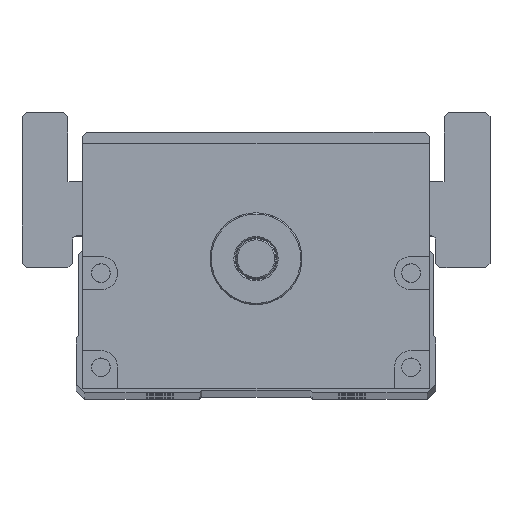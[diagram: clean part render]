
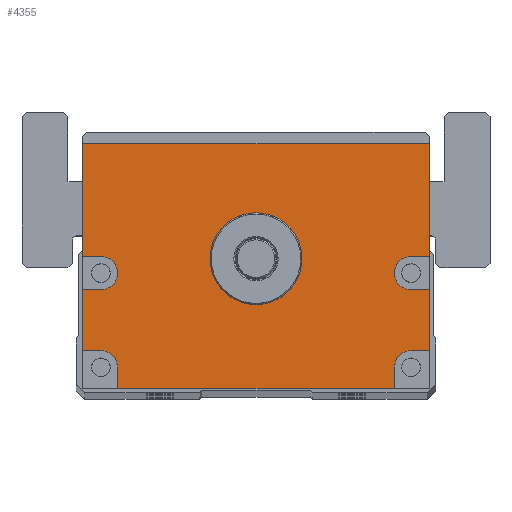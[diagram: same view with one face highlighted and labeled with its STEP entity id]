
A CAD part, top view. The second image highlights one B-rep face of the part: STEP entity #4355.
In plain terms, the highlighted planar face has unit normal (0, 0, 1).
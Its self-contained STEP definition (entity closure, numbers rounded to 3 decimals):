
#3692=FACE_BOUND('',#6014,.T.);
#3693=FACE_BOUND('',#6015,.T.);
#4355=ADVANCED_FACE('',(#3692,#3693),#4845,.T.);
#4845=PLANE('',#15044);
#6014=EDGE_LOOP('',(#9879,#9880,#9881,#9882,#9883,#9884,#9885,#9886,#9887,
#9888,#9889,#9890,#9891,#9892,#9893,#9894,#9895,#9896));
#6015=EDGE_LOOP('',(#9897));
#6893=LINE('',#21819,#7665);
#6895=LINE('',#21827,#7667);
#6896=LINE('',#21830,#7668);
#6897=LINE('',#21832,#7669);
#6898=LINE('',#21836,#7670);
#6899=LINE('',#21838,#7671);
#6900=LINE('',#21839,#7672);
#6901=LINE('',#21841,#7673);
#6902=LINE('',#21845,#7674);
#6903=LINE('',#21847,#7675);
#6904=LINE('',#21849,#7676);
#6905=LINE('',#21853,#7677);
#6906=LINE('',#21855,#7678);
#6907=LINE('',#21857,#7679);
#7665=VECTOR('',#17316,1.);
#7667=VECTOR('',#17324,1.);
#7668=VECTOR('',#17325,1.);
#7669=VECTOR('',#17326,1.);
#7670=VECTOR('',#17329,1.);
#7671=VECTOR('',#17330,1.);
#7672=VECTOR('',#17331,1.);
#7673=VECTOR('',#17332,1.);
#7674=VECTOR('',#17335,1.);
#7675=VECTOR('',#17336,1.);
#7676=VECTOR('',#17337,1.);
#7677=VECTOR('',#17340,1.);
#7678=VECTOR('',#17341,1.);
#7679=VECTOR('',#17342,1.);
#9879=ORIENTED_EDGE('',*,*,#13257,.F.);
#9880=ORIENTED_EDGE('',*,*,#13258,.T.);
#9881=ORIENTED_EDGE('',*,*,#13259,.F.);
#9882=ORIENTED_EDGE('',*,*,#13260,.F.);
#9883=ORIENTED_EDGE('',*,*,#13261,.F.);
#9884=ORIENTED_EDGE('',*,*,#13262,.T.);
#9885=ORIENTED_EDGE('',*,*,#13253,.T.);
#9886=ORIENTED_EDGE('',*,*,#13263,.T.);
#9887=ORIENTED_EDGE('',*,*,#13264,.F.);
#9888=ORIENTED_EDGE('',*,*,#13265,.F.);
#9889=ORIENTED_EDGE('',*,*,#13266,.F.);
#9890=ORIENTED_EDGE('',*,*,#13267,.T.);
#9891=ORIENTED_EDGE('',*,*,#13268,.F.);
#9892=ORIENTED_EDGE('',*,*,#13269,.F.);
#9893=ORIENTED_EDGE('',*,*,#13270,.F.);
#9894=ORIENTED_EDGE('',*,*,#13271,.T.);
#9895=ORIENTED_EDGE('',*,*,#13272,.F.);
#9896=ORIENTED_EDGE('',*,*,#13273,.F.);
#9897=ORIENTED_EDGE('',*,*,#13239,.T.);
#11826=VERTEX_POINT('',#21790);
#11839=VERTEX_POINT('',#21818);
#11840=VERTEX_POINT('',#21820);
#11843=VERTEX_POINT('',#21828);
#11844=VERTEX_POINT('',#21829);
#11845=VERTEX_POINT('',#21831);
#11846=VERTEX_POINT('',#21833);
#11847=VERTEX_POINT('',#21835);
#11848=VERTEX_POINT('',#21837);
#11849=VERTEX_POINT('',#21840);
#11850=VERTEX_POINT('',#21842);
#11851=VERTEX_POINT('',#21844);
#11852=VERTEX_POINT('',#21846);
#11853=VERTEX_POINT('',#21848);
#11854=VERTEX_POINT('',#21850);
#11855=VERTEX_POINT('',#21852);
#11856=VERTEX_POINT('',#21854);
#11857=VERTEX_POINT('',#21856);
#11858=VERTEX_POINT('',#21858);
#13239=EDGE_CURVE('',#11826,#11826,#14158,.T.);
#13253=EDGE_CURVE('',#11840,#11839,#6893,.T.);
#13257=EDGE_CURVE('',#11843,#11844,#6895,.T.);
#13258=EDGE_CURVE('',#11843,#11845,#6896,.T.);
#13259=EDGE_CURVE('',#11846,#11845,#6897,.T.);
#13260=EDGE_CURVE('',#11847,#11846,#14169,.T.);
#13261=EDGE_CURVE('',#11848,#11847,#6898,.T.);
#13262=EDGE_CURVE('',#11848,#11840,#6899,.T.);
#13263=EDGE_CURVE('',#11839,#11849,#6900,.T.);
#13264=EDGE_CURVE('',#11850,#11849,#6901,.T.);
#13265=EDGE_CURVE('',#11851,#11850,#14170,.T.);
#13266=EDGE_CURVE('',#11852,#11851,#6902,.T.);
#13267=EDGE_CURVE('',#11852,#11853,#6903,.T.);
#13268=EDGE_CURVE('',#11854,#11853,#6904,.T.);
#13269=EDGE_CURVE('',#11855,#11854,#14171,.T.);
#13270=EDGE_CURVE('',#11856,#11855,#6905,.T.);
#13271=EDGE_CURVE('',#11856,#11857,#6906,.T.);
#13272=EDGE_CURVE('',#11858,#11857,#6907,.T.);
#13273=EDGE_CURVE('',#11844,#11858,#14172,.T.);
#14158=CIRCLE('',#15026,11.);
#14169=CIRCLE('',#15040,4.);
#14170=CIRCLE('',#15041,4.);
#14171=CIRCLE('',#15042,4.);
#14172=CIRCLE('',#15043,4.);
#15026=AXIS2_PLACEMENT_3D('',#21789,#17289,#17290);
#15040=AXIS2_PLACEMENT_3D('',#21834,#17327,#17328);
#15041=AXIS2_PLACEMENT_3D('',#21843,#17333,#17334);
#15042=AXIS2_PLACEMENT_3D('',#21851,#17338,#17339);
#15043=AXIS2_PLACEMENT_3D('',#21859,#17343,#17344);
#15044=AXIS2_PLACEMENT_3D('',#21860,#17345,#17346);
#17289=DIRECTION('',(0.,0.,-1.));
#17290=DIRECTION('',(1.,0.,0.));
#17316=DIRECTION('',(-1.,0.,0.));
#17324=DIRECTION('',(-1.,0.,0.));
#17325=DIRECTION('',(0.,1.,0.));
#17326=DIRECTION('',(1.,0.,0.));
#17327=DIRECTION('',(0.,0.,1.));
#17328=DIRECTION('',(1.,0.,0.));
#17329=DIRECTION('',(-1.,0.,0.));
#17330=DIRECTION('',(0.,1.,0.));
#17331=DIRECTION('',(0.,-1.,0.));
#17332=DIRECTION('',(-1.,0.,0.));
#17333=DIRECTION('',(0.,0.,1.));
#17334=DIRECTION('',(1.,0.,0.));
#17335=DIRECTION('',(1.,0.,0.));
#17336=DIRECTION('',(0.,-1.,0.));
#17337=DIRECTION('',(-1.,0.,0.));
#17338=DIRECTION('',(0.,0.,1.));
#17339=DIRECTION('',(1.,0.,0.));
#17340=DIRECTION('',(0.,1.,0.));
#17341=DIRECTION('',(1.,0.,0.));
#17342=DIRECTION('',(0.,-1.,0.));
#17343=DIRECTION('',(0.,0.,1.));
#17344=DIRECTION('',(1.,0.,0.));
#17345=DIRECTION('',(0.,0.,1.));
#17346=DIRECTION('',(1.,0.,0.));
#21789=CARTESIAN_POINT('',(0.,0.,782.5));
#21790=CARTESIAN_POINT('',(11.,0.,782.5));
#21818=CARTESIAN_POINT('',(-41.5,27.5,782.5));
#21819=CARTESIAN_POINT('',(41.5,27.5,782.5));
#21820=CARTESIAN_POINT('',(41.5,27.5,782.5));
#21827=CARTESIAN_POINT('',(41.5,-22.,782.5));
#21828=CARTESIAN_POINT('',(41.5,-22.,782.5));
#21829=CARTESIAN_POINT('',(37.115,-22.,782.5));
#21830=CARTESIAN_POINT('',(41.5,-31.,782.5));
#21831=CARTESIAN_POINT('',(41.5,-7.431,782.5));
#21832=CARTESIAN_POINT('',(41.5,-7.431,782.5));
#21833=CARTESIAN_POINT('',(37.115,-7.431,782.5));
#21834=CARTESIAN_POINT('',(37.115,-3.431,782.5));
#21835=CARTESIAN_POINT('',(37.115,0.569,782.5));
#21836=CARTESIAN_POINT('',(41.5,0.569,782.5));
#21837=CARTESIAN_POINT('',(41.5,0.569,782.5));
#21838=CARTESIAN_POINT('',(41.5,-31.,782.5));
#21839=CARTESIAN_POINT('',(-41.5,27.5,782.5));
#21840=CARTESIAN_POINT('',(-41.5,0.569,782.5));
#21841=CARTESIAN_POINT('',(41.5,0.569,782.5));
#21842=CARTESIAN_POINT('',(-37.115,0.569,782.5));
#21843=CARTESIAN_POINT('',(-37.115,-3.431,782.5));
#21844=CARTESIAN_POINT('',(-37.115,-7.431,782.5));
#21845=CARTESIAN_POINT('',(41.5,-7.431,782.5));
#21846=CARTESIAN_POINT('',(-41.5,-7.431,782.5));
#21847=CARTESIAN_POINT('',(-41.5,27.5,782.5));
#21848=CARTESIAN_POINT('',(-41.5,-22.,782.5));
#21849=CARTESIAN_POINT('',(41.5,-22.,782.5));
#21850=CARTESIAN_POINT('',(-37.115,-22.,782.5));
#21851=CARTESIAN_POINT('',(-37.115,-26.,782.5));
#21852=CARTESIAN_POINT('',(-33.115,-26.,782.5));
#21853=CARTESIAN_POINT('',(-33.115,-31.,782.5));
#21854=CARTESIAN_POINT('',(-33.115,-31.,782.5));
#21855=CARTESIAN_POINT('',(-41.5,-31.,782.5));
#21856=CARTESIAN_POINT('',(33.115,-31.,782.5));
#21857=CARTESIAN_POINT('',(33.115,-31.,782.5));
#21858=CARTESIAN_POINT('',(33.115,-26.,782.5));
#21859=CARTESIAN_POINT('',(37.115,-26.,782.5));
#21860=CARTESIAN_POINT('',(41.5,-31.,782.5));
